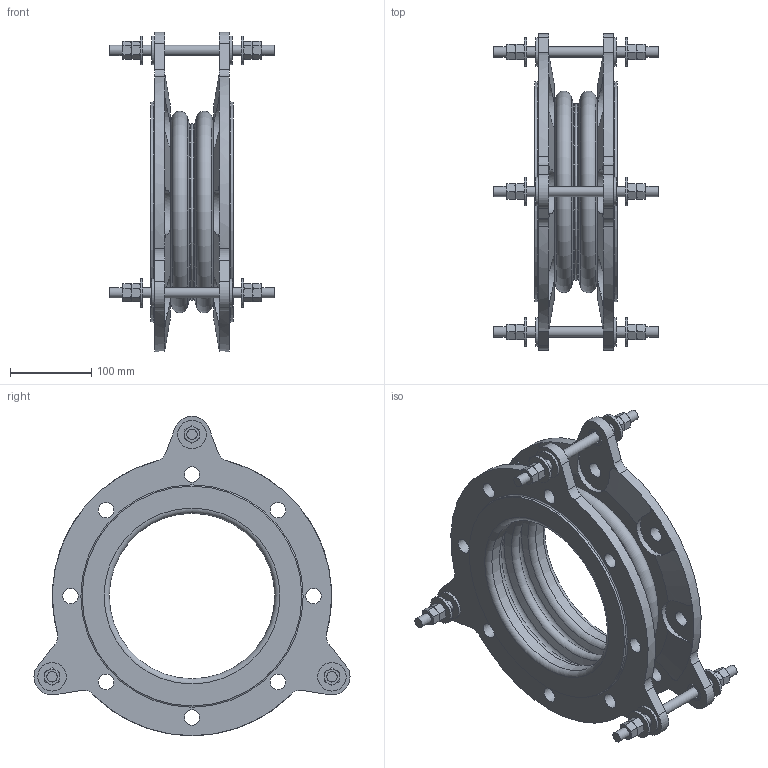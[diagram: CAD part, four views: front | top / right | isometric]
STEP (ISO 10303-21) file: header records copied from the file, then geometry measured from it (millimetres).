
FILE_DESCRIPTION(/* description */ (''),/* implementation_level */ '2;1');
FILE_NAME(/* name */ 'C:\Users\rramoutar\Desktop\802\802 8IDx4FF.stp',/* time_stamp */ '2016-04-24T11:57:49-04:00',/* author */ ('rramoutar'),/* organization */ ('Mason Industries Inc.'),/* preprocessor_version */ 'ST-DEVELOPER v15.6',/* originating_system */ 'Autodesk Inventor 2015',/* authorisation */ '');
FILE_SCHEMA (('CONFIG_CONTROL_DESIGN'));
Length unit declared in the file: inch
Products named in the file (1): 802 8IDx4FF
Bounding box: 203.2 x 388.15 x 392.11 mm (x, y, z)
Volume: 2584289.3 mm3; surface area: 605711.3 mm2
Topology: 5 solids, 5 shells, 530 faces, 1173 edges, 705 vertices
Faces by surface type: plane 194, cone 174, cylinder 141, torus 21
Full cylindrical faces by diameter (mm): 12.7 x9, 14.287 x6, 16.272 x6, 19.05 x16, 21.828 x6, 22.225 x6, 34.925 x12, 203.2 x2, 209.55 x2, 211.137 x2, 269.875 x2
Entity records: 14702 total; most frequent: CARTESIAN_POINT 3594, DIRECTION 2182, ORIENTED_EDGE 2116, EDGE_CURVE 1058, AXIS2_PLACEMENT_3D 977, EDGE_LOOP 733, VERTEX_POINT 693, FACE_OUTER_BOUND 530
